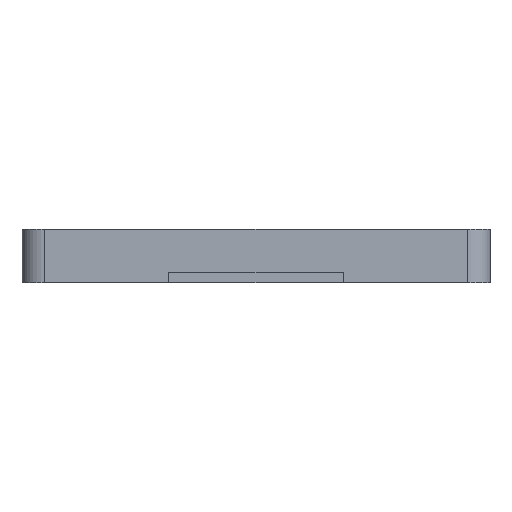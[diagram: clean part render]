
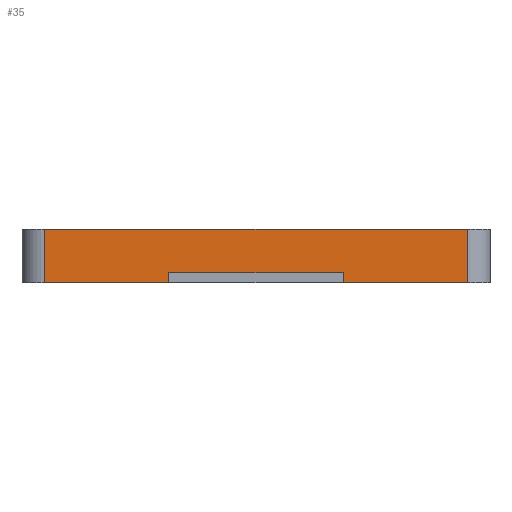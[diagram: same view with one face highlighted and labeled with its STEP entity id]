
A CAD part, left-side view. The second image highlights one B-rep face of the part: STEP entity #35.
In plain terms, the highlighted planar face has unit normal (-1, 0, 0).
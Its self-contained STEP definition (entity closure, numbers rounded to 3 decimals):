
#35 = ADVANCED_FACE('',(#36),#50,.T.);
#36 = FACE_BOUND('',#37,.T.);
#37 = EDGE_LOOP('',(#38,#73,#101,#129,#155,#181,#207,#230));
#38 = ORIENTED_EDGE('',*,*,#39,.F.);
#39 = EDGE_CURVE('',#40,#42,#44,.T.);
#40 = VERTEX_POINT('',#41);
#41 = CARTESIAN_POINT('',(-74.25,-48.5,5.4));
#42 = VERTEX_POINT('',#43);
#43 = CARTESIAN_POINT('',(-74.25,48.5,5.4));
#44 = SURFACE_CURVE('',#45,(#49,#61),.PCURVE_S1.);
#45 = LINE('',#46,#47);
#46 = CARTESIAN_POINT('',(-74.25,0.,5.4));
#47 = VECTOR('',#48,1.);
#48 = DIRECTION('',(0.,1.,0.));
#49 = PCURVE('',#50,#55);
#50 = PLANE('',#51);
#51 = AXIS2_PLACEMENT_3D('',#52,#53,#54);
#52 = CARTESIAN_POINT('',(-74.25,-48.5,5.4));
#53 = DIRECTION('',(-1.,0.,0.));
#54 = DIRECTION('',(0.,1.,0.));
#55 = DEFINITIONAL_REPRESENTATION('',(#56),#60);
#56 = LINE('',#57,#58);
#57 = CARTESIAN_POINT('',(48.5,0.));
#58 = VECTOR('',#59,1.);
#59 = DIRECTION('',(1.,0.));
#60 = ( GEOMETRIC_REPRESENTATION_CONTEXT(2) 
PARAMETRIC_REPRESENTATION_CONTEXT() REPRESENTATION_CONTEXT('2D SPACE',''
  ) );
#61 = PCURVE('',#62,#67);
#62 = PLANE('',#63);
#63 = AXIS2_PLACEMENT_3D('',#64,#65,#66);
#64 = CARTESIAN_POINT('',(0.,0.,5.4));
#65 = DIRECTION('',(0.,0.,1.));
#66 = DIRECTION('',(1.,0.,-0.));
#67 = DEFINITIONAL_REPRESENTATION('',(#68),#72);
#68 = LINE('',#69,#70);
#69 = CARTESIAN_POINT('',(-74.25,0.));
#70 = VECTOR('',#71,1.);
#71 = DIRECTION('',(0.,1.));
#72 = ( GEOMETRIC_REPRESENTATION_CONTEXT(2) 
PARAMETRIC_REPRESENTATION_CONTEXT() REPRESENTATION_CONTEXT('2D SPACE',''
  ) );
#73 = ORIENTED_EDGE('',*,*,#74,.T.);
#74 = EDGE_CURVE('',#40,#75,#77,.T.);
#75 = VERTEX_POINT('',#76);
#76 = CARTESIAN_POINT('',(-74.25,-48.5,17.8));
#77 = SURFACE_CURVE('',#78,(#82,#89),.PCURVE_S1.);
#78 = LINE('',#79,#80);
#79 = CARTESIAN_POINT('',(-74.25,-48.5,5.4));
#80 = VECTOR('',#81,1.);
#81 = DIRECTION('',(0.,0.,1.));
#82 = PCURVE('',#50,#83);
#83 = DEFINITIONAL_REPRESENTATION('',(#84),#88);
#84 = LINE('',#85,#86);
#85 = CARTESIAN_POINT('',(0.,0.));
#86 = VECTOR('',#87,1.);
#87 = DIRECTION('',(0.,-1.));
#88 = ( GEOMETRIC_REPRESENTATION_CONTEXT(2) 
PARAMETRIC_REPRESENTATION_CONTEXT() REPRESENTATION_CONTEXT('2D SPACE',''
  ) );
#89 = PCURVE('',#90,#95);
#90 = CYLINDRICAL_SURFACE('',#91,5.25);
#91 = AXIS2_PLACEMENT_3D('',#92,#93,#94);
#92 = CARTESIAN_POINT('',(-69.,-48.5,5.4));
#93 = DIRECTION('',(0.,0.,-1.));
#94 = DIRECTION('',(-1.,0.,0.));
#95 = DEFINITIONAL_REPRESENTATION('',(#96),#100);
#96 = LINE('',#97,#98);
#97 = CARTESIAN_POINT('',(6.283,0.));
#98 = VECTOR('',#99,1.);
#99 = DIRECTION('',(0.,-1.));
#100 = ( GEOMETRIC_REPRESENTATION_CONTEXT(2) 
PARAMETRIC_REPRESENTATION_CONTEXT() REPRESENTATION_CONTEXT('2D SPACE',''
  ) );
#101 = ORIENTED_EDGE('',*,*,#102,.T.);
#102 = EDGE_CURVE('',#75,#103,#105,.T.);
#103 = VERTEX_POINT('',#104);
#104 = CARTESIAN_POINT('',(-74.25,-20.,17.8));
#105 = SURFACE_CURVE('',#106,(#110,#117),.PCURVE_S1.);
#106 = LINE('',#107,#108);
#107 = CARTESIAN_POINT('',(-74.25,0.,17.8));
#108 = VECTOR('',#109,1.);
#109 = DIRECTION('',(0.,1.,0.));
#110 = PCURVE('',#50,#111);
#111 = DEFINITIONAL_REPRESENTATION('',(#112),#116);
#112 = LINE('',#113,#114);
#113 = CARTESIAN_POINT('',(48.5,-12.4));
#114 = VECTOR('',#115,1.);
#115 = DIRECTION('',(1.,0.));
#116 = ( GEOMETRIC_REPRESENTATION_CONTEXT(2) 
PARAMETRIC_REPRESENTATION_CONTEXT() REPRESENTATION_CONTEXT('2D SPACE',''
  ) );
#117 = PCURVE('',#118,#123);
#118 = PLANE('',#119);
#119 = AXIS2_PLACEMENT_3D('',#120,#121,#122);
#120 = CARTESIAN_POINT('',(0.,0.,17.8)
  );
#121 = DIRECTION('',(0.,0.,1.));
#122 = DIRECTION('',(1.,0.,-0.));
#123 = DEFINITIONAL_REPRESENTATION('',(#124),#128);
#124 = LINE('',#125,#126);
#125 = CARTESIAN_POINT('',(-74.25,0.));
#126 = VECTOR('',#127,1.);
#127 = DIRECTION('',(0.,1.));
#128 = ( GEOMETRIC_REPRESENTATION_CONTEXT(2) 
PARAMETRIC_REPRESENTATION_CONTEXT() REPRESENTATION_CONTEXT('2D SPACE',''
  ) );
#129 = ORIENTED_EDGE('',*,*,#130,.T.);
#130 = EDGE_CURVE('',#103,#131,#133,.T.);
#131 = VERTEX_POINT('',#132);
#132 = CARTESIAN_POINT('',(-74.25,-20.,15.4));
#133 = SURFACE_CURVE('',#134,(#138,#144),.PCURVE_S1.);
#134 = LINE('',#135,#136);
#135 = CARTESIAN_POINT('',(-74.25,-20.,10.4));
#136 = VECTOR('',#137,1.);
#137 = DIRECTION('',(0.,0.,-1.));
#138 = PCURVE('',#50,#139);
#139 = DEFINITIONAL_REPRESENTATION('',(#140),#143);
#140 = B_SPLINE_CURVE_WITH_KNOTS('',1,(#141,#142),.UNSPECIFIED.,.F.,.F.,
  (2,2),(-7.4,-5.),.PIECEWISE_BEZIER_KNOTS.);
#141 = CARTESIAN_POINT('',(28.5,-12.4));
#142 = CARTESIAN_POINT('',(28.5,-10.));
#143 = ( GEOMETRIC_REPRESENTATION_CONTEXT(2) 
PARAMETRIC_REPRESENTATION_CONTEXT() REPRESENTATION_CONTEXT('2D SPACE',''
  ) );
#144 = PCURVE('',#145,#150);
#145 = PLANE('',#146);
#146 = AXIS2_PLACEMENT_3D('',#147,#148,#149);
#147 = CARTESIAN_POINT('',(-83.25,-20.,15.4));
#148 = DIRECTION('',(-0.,1.,0.));
#149 = DIRECTION('',(0.,0.,1.));
#150 = DEFINITIONAL_REPRESENTATION('',(#151),#154);
#151 = B_SPLINE_CURVE_WITH_KNOTS('',1,(#152,#153),.UNSPECIFIED.,.F.,.F.,
  (2,2),(-7.4,-5.),.PIECEWISE_BEZIER_KNOTS.);
#152 = CARTESIAN_POINT('',(2.4,9.));
#153 = CARTESIAN_POINT('',(0.,9.));
#154 = ( GEOMETRIC_REPRESENTATION_CONTEXT(2) 
PARAMETRIC_REPRESENTATION_CONTEXT() REPRESENTATION_CONTEXT('2D SPACE',''
  ) );
#155 = ORIENTED_EDGE('',*,*,#156,.T.);
#156 = EDGE_CURVE('',#131,#157,#159,.T.);
#157 = VERTEX_POINT('',#158);
#158 = CARTESIAN_POINT('',(-74.25,20.,15.4));
#159 = SURFACE_CURVE('',#160,(#164,#170),.PCURVE_S1.);
#160 = LINE('',#161,#162);
#161 = CARTESIAN_POINT('',(-74.25,-34.25,15.4));
#162 = VECTOR('',#163,1.);
#163 = DIRECTION('',(0.,1.,-0.));
#164 = PCURVE('',#50,#165);
#165 = DEFINITIONAL_REPRESENTATION('',(#166),#169);
#166 = B_SPLINE_CURVE_WITH_KNOTS('',1,(#167,#168),.UNSPECIFIED.,.F.,.F.,
  (2,2),(14.25,54.25),.PIECEWISE_BEZIER_KNOTS.);
#167 = CARTESIAN_POINT('',(28.5,-10.));
#168 = CARTESIAN_POINT('',(68.5,-10.));
#169 = ( GEOMETRIC_REPRESENTATION_CONTEXT(2) 
PARAMETRIC_REPRESENTATION_CONTEXT() REPRESENTATION_CONTEXT('2D SPACE',''
  ) );
#170 = PCURVE('',#171,#176);
#171 = PLANE('',#172);
#172 = AXIS2_PLACEMENT_3D('',#173,#174,#175);
#173 = CARTESIAN_POINT('',(-83.25,-20.,15.4));
#174 = DIRECTION('',(0.,0.,1.));
#175 = DIRECTION('',(1.,0.,-0.));
#176 = DEFINITIONAL_REPRESENTATION('',(#177),#180);
#177 = B_SPLINE_CURVE_WITH_KNOTS('',1,(#178,#179),.UNSPECIFIED.,.F.,.F.,
  (2,2),(14.25,54.25),.PIECEWISE_BEZIER_KNOTS.);
#178 = CARTESIAN_POINT('',(9.,0.));
#179 = CARTESIAN_POINT('',(9.,40.));
#180 = ( GEOMETRIC_REPRESENTATION_CONTEXT(2) 
PARAMETRIC_REPRESENTATION_CONTEXT() REPRESENTATION_CONTEXT('2D SPACE',''
  ) );
#181 = ORIENTED_EDGE('',*,*,#182,.F.);
#182 = EDGE_CURVE('',#183,#157,#185,.T.);
#183 = VERTEX_POINT('',#184);
#184 = CARTESIAN_POINT('',(-74.25,20.,17.8));
#185 = SURFACE_CURVE('',#186,(#190,#196),.PCURVE_S1.);
#186 = LINE('',#187,#188);
#187 = CARTESIAN_POINT('',(-74.25,20.,10.4));
#188 = VECTOR('',#189,1.);
#189 = DIRECTION('',(0.,0.,-1.));
#190 = PCURVE('',#50,#191);
#191 = DEFINITIONAL_REPRESENTATION('',(#192),#195);
#192 = B_SPLINE_CURVE_WITH_KNOTS('',1,(#193,#194),.UNSPECIFIED.,.F.,.F.,
  (2,2),(-7.4,-5.),.PIECEWISE_BEZIER_KNOTS.);
#193 = CARTESIAN_POINT('',(68.5,-12.4));
#194 = CARTESIAN_POINT('',(68.5,-10.));
#195 = ( GEOMETRIC_REPRESENTATION_CONTEXT(2) 
PARAMETRIC_REPRESENTATION_CONTEXT() REPRESENTATION_CONTEXT('2D SPACE',''
  ) );
#196 = PCURVE('',#197,#202);
#197 = PLANE('',#198);
#198 = AXIS2_PLACEMENT_3D('',#199,#200,#201);
#199 = CARTESIAN_POINT('',(-83.25,20.,15.4));
#200 = DIRECTION('',(-0.,1.,0.));
#201 = DIRECTION('',(0.,0.,1.));
#202 = DEFINITIONAL_REPRESENTATION('',(#203),#206);
#203 = B_SPLINE_CURVE_WITH_KNOTS('',1,(#204,#205),.UNSPECIFIED.,.F.,.F.,
  (2,2),(-7.4,-5.),.PIECEWISE_BEZIER_KNOTS.);
#204 = CARTESIAN_POINT('',(2.4,9.));
#205 = CARTESIAN_POINT('',(0.,9.));
#206 = ( GEOMETRIC_REPRESENTATION_CONTEXT(2) 
PARAMETRIC_REPRESENTATION_CONTEXT() REPRESENTATION_CONTEXT('2D SPACE',''
  ) );
#207 = ORIENTED_EDGE('',*,*,#208,.T.);
#208 = EDGE_CURVE('',#183,#209,#211,.T.);
#209 = VERTEX_POINT('',#210);
#210 = CARTESIAN_POINT('',(-74.25,48.5,17.8));
#211 = SURFACE_CURVE('',#212,(#216,#223),.PCURVE_S1.);
#212 = LINE('',#213,#214);
#213 = CARTESIAN_POINT('',(-74.25,0.,17.8));
#214 = VECTOR('',#215,1.);
#215 = DIRECTION('',(0.,1.,0.));
#216 = PCURVE('',#50,#217);
#217 = DEFINITIONAL_REPRESENTATION('',(#218),#222);
#218 = LINE('',#219,#220);
#219 = CARTESIAN_POINT('',(48.5,-12.4));
#220 = VECTOR('',#221,1.);
#221 = DIRECTION('',(1.,0.));
#222 = ( GEOMETRIC_REPRESENTATION_CONTEXT(2) 
PARAMETRIC_REPRESENTATION_CONTEXT() REPRESENTATION_CONTEXT('2D SPACE',''
  ) );
#223 = PCURVE('',#118,#224);
#224 = DEFINITIONAL_REPRESENTATION('',(#225),#229);
#225 = LINE('',#226,#227);
#226 = CARTESIAN_POINT('',(-74.25,0.));
#227 = VECTOR('',#228,1.);
#228 = DIRECTION('',(0.,1.));
#229 = ( GEOMETRIC_REPRESENTATION_CONTEXT(2) 
PARAMETRIC_REPRESENTATION_CONTEXT() REPRESENTATION_CONTEXT('2D SPACE',''
  ) );
#230 = ORIENTED_EDGE('',*,*,#231,.F.);
#231 = EDGE_CURVE('',#42,#209,#232,.T.);
#232 = SURFACE_CURVE('',#233,(#237,#244),.PCURVE_S1.);
#233 = LINE('',#234,#235);
#234 = CARTESIAN_POINT('',(-74.25,48.5,5.4));
#235 = VECTOR('',#236,1.);
#236 = DIRECTION('',(0.,0.,1.));
#237 = PCURVE('',#50,#238);
#238 = DEFINITIONAL_REPRESENTATION('',(#239),#243);
#239 = LINE('',#240,#241);
#240 = CARTESIAN_POINT('',(97.,0.));
#241 = VECTOR('',#242,1.);
#242 = DIRECTION('',(0.,-1.));
#243 = ( GEOMETRIC_REPRESENTATION_CONTEXT(2) 
PARAMETRIC_REPRESENTATION_CONTEXT() REPRESENTATION_CONTEXT('2D SPACE',''
  ) );
#244 = PCURVE('',#245,#250);
#245 = CYLINDRICAL_SURFACE('',#246,5.25);
#246 = AXIS2_PLACEMENT_3D('',#247,#248,#249);
#247 = CARTESIAN_POINT('',(-69.,48.5,5.4));
#248 = DIRECTION('',(0.,0.,-1.));
#249 = DIRECTION('',(-1.,0.,0.));
#250 = DEFINITIONAL_REPRESENTATION('',(#251),#255);
#251 = LINE('',#252,#253);
#252 = CARTESIAN_POINT('',(0.,0.));
#253 = VECTOR('',#254,1.);
#254 = DIRECTION('',(0.,-1.));
#255 = ( GEOMETRIC_REPRESENTATION_CONTEXT(2) 
PARAMETRIC_REPRESENTATION_CONTEXT() REPRESENTATION_CONTEXT('2D SPACE',''
  ) );
